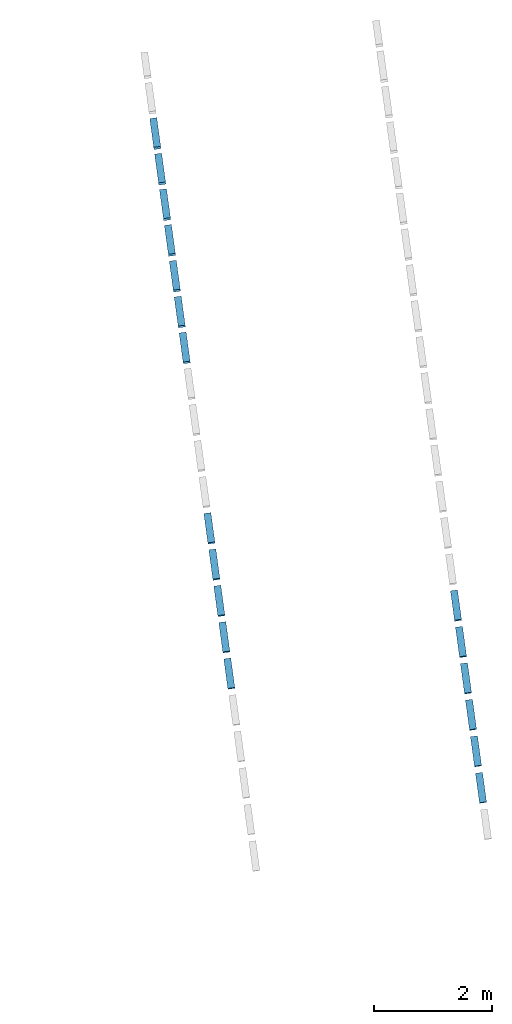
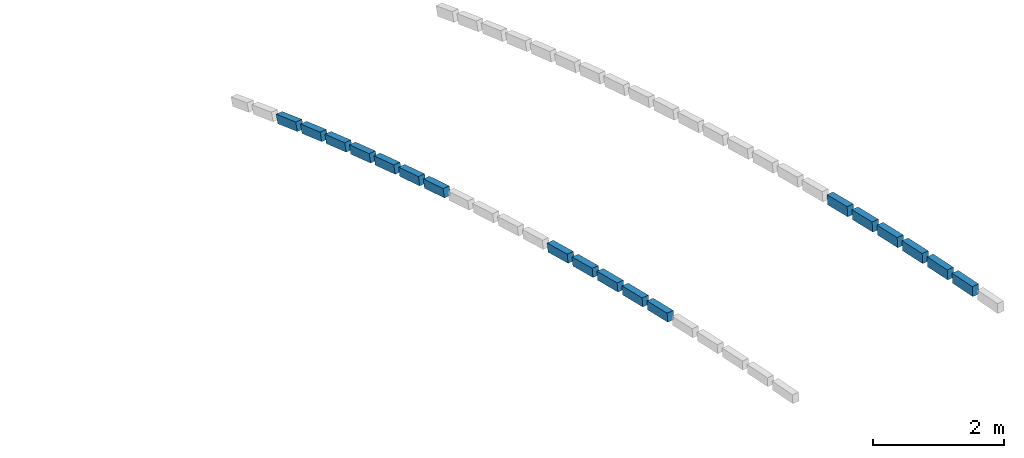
# One storey, part 4 of 6: 18 beams.
"""IFC2X3 building model written with IfcOpenShell, lengths in metres."""

from ifc_helpers import new_model, entity, si_unit, converted_unit, derived_unit, money_unit, direction, frame, frame_2d, origin_with_axes, place, context, subcontext, project, spatial, rectangle, extrude, boolean, faceted_brep, material, type_object, element, save


model = new_model("IFC2X3")

# Units and contexts
model_context = context("Model", 3, precision=1e-05, world=origin_with_axes(), true_north=direction((0.0, 1.0)))
body_context = subcontext(model_context, "Body", "Model", "MODEL_VIEW")
ifc_project = project(units=[si_unit("LENGTHUNIT", "METRE"), si_unit("AREAUNIT", "SQUARE_METRE"), si_unit("VOLUMEUNIT", "CUBIC_METRE"), converted_unit("PLANEANGLEUNIT", "DEGREE", entity("IfcPlaneAngleMeasure", 0.0174532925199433), si_unit("PLANEANGLEUNIT", "RADIAN"), dimensions=[0, 0, 0, 0, 0, 0, 0]), money_unit("EUR"), converted_unit("TIMEUNIT", "Year", entity("IfcTimeMeasure", 31557600.0), si_unit("TIMEUNIT", "SECOND"), dimensions=[0, 0, 1, 0, 0, 0, 0]), si_unit("MASSUNIT", "GRAM", prefix="KILO"), si_unit("THERMODYNAMICTEMPERATUREUNIT", "DEGREE_CELSIUS"), si_unit("LUMINOUSINTENSITYUNIT", "LUMEN"), si_unit("ENERGYUNIT", "JOULE", prefix="MEGA"), derived_unit("THERMALCONDUCTANCEUNIT", [(si_unit("POWERUNIT", "WATT"), 1), (si_unit("LENGTHUNIT", "METRE"), -1), (si_unit("THERMODYNAMICTEMPERATUREUNIT", "KELVIN"), -1)]), derived_unit("SPECIFICHEATCAPACITYUNIT", [(si_unit("ENERGYUNIT", "JOULE"), 1), (si_unit("MASSUNIT", "GRAM", prefix="KILO"), -1), (si_unit("THERMODYNAMICTEMPERATUREUNIT", "KELVIN"), -1)]), derived_unit("MASSDENSITYUNIT", [(si_unit("MASSUNIT", "GRAM", prefix="KILO"), 1), (si_unit("VOLUMEUNIT", "CUBIC_METRE"), -1)])], contexts=[model_context])

# Site, building, storey
site_placement = place(None, origin_with_axes())
site = spatial("IfcSite", under=ifc_project, at=site_placement, Name="Gelände", CompositionType="ELEMENT")
building_placement = place(site_placement, origin_with_axes())
building = spatial("IfcBuilding", under=site, at=building_placement, Name="Gebäude", CompositionType="ELEMENT")
storey_placement = place(building_placement, frame((0.0, 0.0, 9.9), z_axis=(0.0, 0.0, 1.0), x_axis=(1.0, 0.0, 0.0)))
storey = spatial("IfcBuildingStorey", under=building, at=storey_placement, Name="Dach", CompositionType="ELEMENT", Elevation=9.9)

# Beams
ifc_material = material(Name="Bauholz")
beam_type_1 = type_object("IfcBeamType", Name="Bauholz 120 x 160", PredefinedType="NOTDEFINED")
beam_1_placement = place(storey_placement, frame((108.0550938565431, -134.7865069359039, -1.343591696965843), z_axis=(0.0, 0.0, 1.0), x_axis=(-0.9907490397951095, -0.1357068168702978, 0.0)))
element("IfcBeam", 1, at=beam_1_placement, inside=storey, type_object=beam_type_1, material=ifc_material, Name="Unterzug-031", context=body_context, shape_type="CSG", body=[
    boolean("DIFFERENCE", boolean("DIFFERENCE", extrude(rectangle(XDim=0.16, YDim=0.12, at=frame_2d((-0.08, 0.0), x_axis=(1.0, 0.0))), frame((0.0, 0.0, 0.0), z_axis=(0.0, 0.9699179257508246, 0.2434321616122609), x_axis=(0.0, -0.2434321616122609, 0.9699179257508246)), (0.0, 0.0, 1.0), 0.5053439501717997), faceted_brep([(-0.05999999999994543, 0.0, 0.0), (-0.05999999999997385, 0.04030344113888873, -0.1548469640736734), (-0.05999999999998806, 0.0389491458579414, -0.1551868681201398), (0.06000000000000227, 0.04030344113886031, -0.1548469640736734), (0.06000000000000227, 0.0, 0.0), (0.06000000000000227, 0.03894914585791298, -0.1551868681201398)], [[[0, 1, 2]], [[3, 1, 0, 4]], [[1, 3, 5, 2]], [[4, 0, 2, 5]], [[3, 4, 5]]])), faceted_brep([(0.06000000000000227, 0.5290719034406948, -0.03217476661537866), (-0.06000000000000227, 0.5290719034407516, -0.03217476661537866), (-0.05999999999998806, 0.5290913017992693, -0.03216989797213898), (0.06000000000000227, 0.5290913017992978, -0.03216989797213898), (-0.05999999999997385, 0.490040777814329, 0.1229915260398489), (0.0600000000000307, 0.490040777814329, 0.1229915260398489), (-0.05999999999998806, 0.4901421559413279, 0.123016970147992), (0.06000000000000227, 0.4901421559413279, 0.123016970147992)], [[[0, 1, 2, 3]], [[4, 1, 0, 5]], [[1, 4, 6, 2]], [[7, 3, 2, 6]], [[5, 0, 3, 7]], [[4, 5, 7, 6]]])),
])
beam_2_placement = place(storey_placement, frame((108.2199095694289, -135.9897305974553, -1.045690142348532), z_axis=(0.0, 0.0, 1.0), x_axis=(-0.9907490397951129, -0.1357068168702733, 0.0)))
element("IfcBeam", 2, at=beam_2_placement, inside=storey, type_object=beam_type_1, material=ifc_material, Name="Unterzug-031", context=body_context, shape_type="CSG", body=[
    boolean("DIFFERENCE", boolean("DIFFERENCE", extrude(rectangle(XDim=0.16, YDim=0.12, at=frame_2d((-0.08, 0.0), x_axis=(1.0, 0.0))), frame((0.0, 0.0, 0.0), z_axis=(0.0, 0.974598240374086, 0.2239604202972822), x_axis=(0.0, -0.2239604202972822, 0.974598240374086)), (0.0, 0.0, 1.0), 0.5052396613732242), faceted_brep([(-0.05999999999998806, 0.0, 0.0), (-0.05999999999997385, 0.0366277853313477, -0.1557532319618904), (-0.05999999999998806, 0.03583366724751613, -0.1559357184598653), (0.0600000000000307, 0.03662778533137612, -0.1557532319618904), (0.06000000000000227, 0.0, 0.0), (0.06000000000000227, 0.03583366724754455, -0.1559357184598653)], [[[0, 1, 2]], [[3, 1, 0, 4]], [[1, 3, 5, 2]], [[4, 0, 2, 5]], [[3, 4, 5]]])), faceted_brep([(0.06000000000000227, 0.528108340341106, -0.04281213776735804), (-0.05999999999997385, 0.528108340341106, -0.04281213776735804), (-0.06000000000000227, 0.5282393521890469, -0.04278203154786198), (0.06000000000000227, 0.5282393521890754, -0.04278203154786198), (-0.06000000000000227, 0.4924056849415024, 0.1131536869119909), (0.06000000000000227, 0.4924056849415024, 0.1131536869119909)], [[[0, 1, 2, 3]], [[4, 1, 0, 5]], [[1, 4, 2]], [[4, 5, 3, 2]], [[5, 0, 3]]])),
])
beam_3_placement = place(storey_placement, frame((108.1373993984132, -135.3873718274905, -1.191567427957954), z_axis=(0.0, 0.0, 1.0), x_axis=(-0.9907490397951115, -0.1357068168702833, 0.0)))
element("IfcBeam", 3, at=beam_3_placement, inside=storey, type_object=beam_type_1, material=ifc_material, Name="Unterzug-031", context=body_context, shape_type="CSG", body=[
    boolean("DIFFERENCE", boolean("DIFFERENCE", extrude(rectangle(XDim=0.16, YDim=0.12, at=frame_2d((-0.08, 0.0), x_axis=(1.0, 0.0))), frame((0.0, 0.0, 0.0), z_axis=(0.0, 0.9723068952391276, 0.2337077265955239), x_axis=(0.0, -0.2337077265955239, 0.9723068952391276)), (0.0, 0.0, 1.0), 0.5052395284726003), faceted_brep([(-0.05999999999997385, 0.0, 0.0), (-0.05999999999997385, 0.03863559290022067, -0.1552704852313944), (-0.05999999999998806, 0.03739323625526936, -0.1555691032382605), (0.0600000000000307, 0.03863559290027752, -0.1552704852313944), (0.06000000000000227, 0.0, 0.0), (0.06000000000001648, 0.03739323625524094, -0.1555691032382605)], [[[0, 1, 2]], [[3, 1, 0, 4]], [[1, 3, 5, 2]], [[4, 0, 2, 5]], [[3, 4, 5]]])), faceted_brep([(0.0600000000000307, 0.5285104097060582, -0.03752213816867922), (-0.05999999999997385, 0.5285104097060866, -0.03752213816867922), (-0.05999999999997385, 0.528641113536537, -0.03749072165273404), (0.06000000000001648, 0.528641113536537, -0.03749072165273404), (-0.05999999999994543, 0.4912478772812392, 0.1180783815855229), (0.0600000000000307, 0.4912478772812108, 0.1180783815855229)], [[[0, 1, 2, 3]], [[4, 1, 0, 5]], [[1, 4, 2]], [[4, 5, 3, 2]], [[5, 0, 3]]])),
])
beam_4_placement = place(storey_placement, frame((108.4685805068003, -137.8051324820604, -0.6449889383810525), z_axis=(0.0, 0.0, 1.0), x_axis=(-0.9907490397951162, -0.1357068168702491, 0.0)))
element("IfcBeam", 4, at=beam_4_placement, inside=storey, type_object=beam_type_1, material=ifc_material, Name="Unterzug-031", context=body_context, shape_type="CSG", body=[
    boolean("DIFFERENCE", boolean("DIFFERENCE", extrude(rectangle(XDim=0.16, YDim=0.12, at=frame_2d((-0.08, 0.0), x_axis=(1.0, 0.0))), frame((0.0, 0.0, 0.0), z_axis=(0.0, 0.9809235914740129, 0.1943936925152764), x_axis=(0.0, -0.1943936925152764, 0.9809235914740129)), (0.0, 0.0, 1.0), 0.5052407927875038), faceted_brep([(-0.06000000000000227, 0.0, 0.0), (-0.06000000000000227, 0.03190226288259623, -0.1567893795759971), (-0.06000000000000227, 0.03110299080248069, -0.156947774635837), (0.06000000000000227, 0.03190226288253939, -0.1567893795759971), (0.06000000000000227, 0.0, 0.0), (0.06000000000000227, 0.03110299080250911, -0.156947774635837)], [[[0, 1, 2]], [[3, 1, 0, 4]], [[1, 3, 5, 2]], [[4, 0, 2, 5]], [[3, 4, 5]]])), faceted_brep([(0.06000000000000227, 0.5265737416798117, -0.05875828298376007), (-0.06000000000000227, 0.5265737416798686, -0.05875828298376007), (-0.06000000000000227, 0.5267056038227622, -0.0587321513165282), (0.06000000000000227, 0.5267056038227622, -0.0587321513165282), (-0.06000000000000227, 0.4956026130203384, 0.09821562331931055), (0.06000000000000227, 0.4956026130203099, 0.09821562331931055)], [[[0, 1, 2, 3]], [[4, 1, 0, 5]], [[1, 4, 2]], [[4, 5, 3, 2]], [[5, 0, 3]]])),
])
beam_5_placement = place(storey_placement, frame((108.3026159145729, -136.5935215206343, -0.9059747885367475), z_axis=(0.0, 0.0, 1.0), x_axis=(-0.9907490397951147, -0.1357068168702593, 0.0)))
element("IfcBeam", 5, at=beam_5_placement, inside=storey, type_object=beam_type_1, material=ifc_material, Name="Unterzug-031", context=body_context, shape_type="CSG", body=[
    boolean("DIFFERENCE", boolean("DIFFERENCE", extrude(rectangle(XDim=0.16, YDim=0.12, at=frame_2d((-0.08, 0.0), x_axis=(1.0, 0.0))), frame((0.0, 0.0, 0.0), z_axis=(0.0, 0.9767919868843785, 0.2141901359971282), x_axis=(0.0, -0.2141901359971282, 0.9767919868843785)), (0.0, 0.0, 1.0), 0.5052398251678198), faceted_brep([(-0.06000000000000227, 0.0, 0.0), (-0.06000000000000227, 0.03506632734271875, -0.1561121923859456), (-0.06000000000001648, 0.03427042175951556, -0.1562867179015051), (0.05999999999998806, 0.03506632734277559, -0.1561121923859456), (0.06000000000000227, 0.0, 0.0), (0.05999999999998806, 0.03427042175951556, -0.1562867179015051)], [[[0, 1, 2]], [[3, 1, 0, 4]], [[1, 3, 5, 2]], [[4, 0, 2, 5]], [[3, 4, 5]]])), faceted_brep([(0.05999999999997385, 0.5276533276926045, -0.04809812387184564), (-0.06000000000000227, 0.5276533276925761, -0.04809812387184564), (-0.06000000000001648, 0.5277846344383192, -0.04806933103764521), (0.05999999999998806, 0.5277846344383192, -0.04806933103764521), (-0.06000000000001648, 0.4935142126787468, 0.108217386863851), (0.06000000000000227, 0.4935142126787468, 0.108217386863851)], [[[0, 1, 2, 3]], [[4, 1, 0, 5]], [[1, 4, 2]], [[4, 5, 3, 2]], [[5, 0, 3]]])),
])
beam_6_placement = place(storey_placement, frame((108.5518271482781, -138.4128677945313, -0.5239403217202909), z_axis=(0.0, 0.0, 1.0), x_axis=(-0.9907490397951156, -0.1357068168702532, 0.0)))
element("IfcBeam", 6, at=beam_6_placement, inside=storey, type_object=beam_type_1, material=ifc_material, Name="Unterzug-031", context=body_context, shape_type="CSG", body=[
    boolean("DIFFERENCE", boolean("DIFFERENCE", extrude(rectangle(XDim=0.16, YDim=0.12, at=frame_2d((-0.08, 0.0), x_axis=(1.0, 0.0))), frame((0.0, 0.0, 0.0), z_axis=(0.0, 0.9827683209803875, 0.1848416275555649), x_axis=(0.0, -0.1848416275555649, 0.9827683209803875)), (0.0, 0.0, 1.0), 0.5052407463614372), faceted_brep([(-0.05999999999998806, 0.0, 0.0), (-0.05999999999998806, 0.0303754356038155, -0.1570923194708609), (-0.06000000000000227, 0.02957466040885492, -0.1572429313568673), (0.06000000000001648, 0.03037543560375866, -0.1570923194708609), (0.06000000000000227, 0.0, 0.0), (0.06000000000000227, 0.02957466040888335, -0.1572429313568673)], [[[0, 1, 2]], [[3, 1, 0, 4]], [[1, 3, 5, 2]], [[4, 0, 2, 5]], [[3, 4, 5]]])), faceted_brep([(0.06000000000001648, 0.525977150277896, -0.06387825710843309), (-0.05999999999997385, 0.5259771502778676, -0.06387825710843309), (-0.05999999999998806, 0.5261092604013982, -0.06385340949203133), (0.05999999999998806, 0.5261092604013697, -0.06385340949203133), (-0.06000000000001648, 0.496534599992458, 0.09338952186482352), (0.06000000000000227, 0.4965345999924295, 0.09338952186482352)], [[[0, 1, 2, 3]], [[4, 1, 0, 5]], [[1, 4, 2]], [[4, 5, 3, 2]], [[5, 0, 3]]])),
])
beam_7_placement = place(storey_placement, frame((108.9703042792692, -141.4679259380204, -0.0115920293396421), z_axis=(0.0, 0.0, 1.0), x_axis=(-0.9907490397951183, -0.1357068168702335, 0.0)))
element("IfcBeam", 7, at=beam_7_placement, inside=storey, type_object=beam_type_1, material=ifc_material, Name="Unterzug-031", context=body_context, shape_type="CSG", body=[
    boolean("DIFFERENCE", boolean("DIFFERENCE", extrude(rectangle(XDim=0.16, YDim=0.12, at=frame_2d((-0.08, 0.0), x_axis=(1.0, 0.0))), frame((0.0, 0.0, 0.0), z_axis=(0.0, 0.990892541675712, 0.1346550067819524), x_axis=(0.0, -0.1346550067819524, 0.990892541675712)), (0.0, 0.0, 1.0), 0.5052585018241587), faceted_brep([(-0.06000000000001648, 0.0, 0.0), (-0.06000000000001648, 0.02197503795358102, -0.1584843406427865), (-0.06000000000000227, 0.02154480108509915, -0.1585428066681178), (0.05999999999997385, 0.02197503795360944, -0.1584843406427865), (0.05999999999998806, 0.0, 0.0), (0.05999999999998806, 0.02154480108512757, -0.1585428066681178)], [[[0, 1, 2]], [[3, 1, 0, 4]], [[1, 3, 5, 2]], [[4, 0, 2, 5]], [[3, 4, 5]]])), faceted_brep([(0.05999999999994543, 0.5220684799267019, -0.09052532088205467), (-0.06000000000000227, 0.5220684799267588, -0.09052532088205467), (-0.06000000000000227, 0.5222016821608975, -0.09050721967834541), (0.05999999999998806, 0.5222016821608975, -0.09050721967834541), (-0.06000000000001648, 0.5006568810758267, 0.06803558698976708), (0.06000000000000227, 0.5006568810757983, 0.06803558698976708)], [[[0, 1, 2, 3]], [[4, 1, 0, 5]], [[1, 4, 2]], [[4, 5, 3, 2]], [[5, 0, 3]]])),
])
beam_8_placement = place(storey_placement, frame((109.0543965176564, -142.0818344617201, 0.07202363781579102), z_axis=(0.0, 0.0, 1.0), x_axis=(-0.990749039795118, -0.1357068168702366, 0.0)))
element("IfcBeam", 8, at=beam_8_placement, inside=storey, type_object=beam_type_1, material=ifc_material, Name="Unterzug-031", context=body_context, shape_type="CSG", body=[
    boolean("DIFFERENCE", boolean("DIFFERENCE", extrude(rectangle(XDim=0.16, YDim=0.12, at=frame_2d((-0.08, 0.0), x_axis=(1.0, 0.0))), frame((0.0, 0.0, 0.0), z_axis=(0.0, 0.9921754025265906, 0.1248517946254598), x_axis=(0.0, -0.1248517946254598, 0.9921754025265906)), (0.0, 0.0, 1.0), 0.5052407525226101), faceted_brep([(-0.06000000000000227, 0.0, 0.0), (-0.05999999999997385, 0.02040708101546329, -0.1586938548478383), (-0.06000000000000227, 0.01997628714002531, -0.1587480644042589), (0.06000000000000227, 0.02040708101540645, -0.1586938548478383), (0.06000000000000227, 0.0, 0.0), (0.06000000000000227, 0.01997628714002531, -0.1587480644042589)], [[[0, 1, 2]], [[3, 1, 0, 4]], [[1, 3, 5, 2]], [[4, 0, 2, 5]], [[3, 4, 5]]])), faceted_brep([(0.06000000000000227, 0.5211303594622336, -0.09568463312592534), (-0.0600000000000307, 0.5211303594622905, -0.09568463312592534), (-0.06000000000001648, 0.5212637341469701, -0.09566784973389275), (0.05999999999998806, 0.5212637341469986, -0.09566784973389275), (-0.06000000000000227, 0.5012874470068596, 0.06308021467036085), (0.06000000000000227, 0.5012874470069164, 0.06308021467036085)], [[[0, 1, 2, 3]], [[4, 1, 0, 5]], [[1, 4, 2]], [[4, 5, 3, 2]], [[5, 0, 3]]])),
])
beam_9_placement = place(storey_placement, frame((109.1385955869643, -142.6965228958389, 0.1494371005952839), z_axis=(0.0, 0.0, 1.0), x_axis=(-0.9907490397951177, -0.1357068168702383, 0.0)))
element("IfcBeam", 9, at=beam_9_placement, inside=storey, type_object=beam_type_1, material=ifc_material, Name="Unterzug-031", context=body_context, shape_type="CSG", body=[
    boolean("DIFFERENCE", boolean("DIFFERENCE", extrude(rectangle(XDim=0.16, YDim=0.12, at=frame_2d((-0.08, 0.0), x_axis=(1.0, 0.0))), frame((0.0, 0.0, 0.0), z_axis=(0.0, 0.9933728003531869, 0.1149368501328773), x_axis=(0.0, -0.1149368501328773, 0.9933728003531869)), (0.0, 0.0, 1.0), 0.5052231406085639), faceted_brep([(-0.06000000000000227, 0.0, 0.0), (-0.06000000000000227, 0.01882120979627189, -0.1588897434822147), (-0.06000000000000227, 0.01838989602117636, -0.1589396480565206), (0.06000000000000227, 0.01882120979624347, -0.1588897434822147), (0.06000000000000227, 0.0, 0.0), (0.05999999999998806, 0.01838989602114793, -0.1589396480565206)], [[[0, 1, 2]], [[3, 1, 0, 4]], [[1, 3, 5, 2]], [[4, 0, 2, 5]], [[3, 4, 5]]])), faceted_brep([(0.06000000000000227, 0.5201312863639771, -0.1008863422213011), (-0.06000000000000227, 0.5201312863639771, -0.1008863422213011), (-0.06000000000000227, 0.5202648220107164, -0.1008708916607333), (0.06000000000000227, 0.5202648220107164, -0.1008708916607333), (-0.06000000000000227, 0.5018749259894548, 0.05806875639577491), (0.05999999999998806, 0.5018749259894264, 0.05806875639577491)], [[[0, 1, 2, 3]], [[4, 1, 0, 5]], [[1, 4, 2]], [[4, 5, 3, 2]], [[5, 0, 3]]])),
])
beam_10_placement = place(storey_placement, frame((109.2228926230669, -143.3119265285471, 0.2206739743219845), z_axis=(0.0, 0.0, 1.0), x_axis=(-0.9907490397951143, -0.1357068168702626, 0.0)))
element("IfcBeam", 10, at=beam_10_placement, inside=storey, type_object=beam_type_1, material=ifc_material, Name="Unterzug-031", context=body_context, shape_type="CSG", body=[
    boolean("DIFFERENCE", boolean("DIFFERENCE", extrude(rectangle(XDim=0.16, YDim=0.12, at=frame_2d((-0.08, 0.0), x_axis=(1.0, 0.0))), frame((0.0, 0.0, 0.0), z_axis=(0.0, 0.994501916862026, 0.1047183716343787), x_axis=(0.0, -0.1047183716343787, 0.994501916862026)), (0.0, 0.0, 1.0), 0.5052516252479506), faceted_brep([(-0.06000000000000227, 0.0, 0.0), (-0.06000000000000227, 0.01718674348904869, -0.1590748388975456), (-0.06000000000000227, 0.01675493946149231, -0.1591203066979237), (0.06000000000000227, 0.01718674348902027, -0.1590748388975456), (0.0600000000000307, 0.0, 0.0), (0.06000000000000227, 0.01675493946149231, -0.1591203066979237)], [[[0, 1, 2]], [[3, 1, 0, 4]], [[1, 3, 5, 2]], [[4, 0, 2, 5]], [[3, 4, 5]]])), faceted_brep([(0.06000000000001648, 0.5190949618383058, -0.106225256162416), (-0.05999999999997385, 0.5190949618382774, -0.106225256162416), (-0.06000000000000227, 0.5192286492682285, -0.1062111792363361), (0.06000000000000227, 0.5192286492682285, -0.1062111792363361), (-0.05999999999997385, 0.5024737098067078, 0.0529091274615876), (0.0600000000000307, 0.5024737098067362, 0.0529091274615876)], [[[0, 1, 2, 3]], [[4, 1, 0, 5]], [[1, 4, 2]], [[4, 5, 3, 2]], [[5, 0, 3]]])),
])
beam_11_placement = place(storey_placement, frame((109.3072890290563, -143.9280556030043, 0.285480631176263), z_axis=(0.0, 0.0, 1.0), x_axis=(-0.9907490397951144, -0.1357068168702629, 0.0)))
element("IfcBeam", 11, at=beam_11_placement, inside=storey, type_object=beam_type_1, material=ifc_material, Name="Unterzug-031", context=body_context, shape_type="CSG", body=[
    boolean("DIFFERENCE", boolean("DIFFERENCE", extrude(rectangle(XDim=0.16, YDim=0.12, at=frame_2d((-0.08, 0.0), x_axis=(1.0, 0.0))), frame((0.0, 0.0, 0.0), z_axis=(0.0, 0.9955055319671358, 0.09470340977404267), x_axis=(0.0, -0.09470340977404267, 0.9955055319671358)), (0.0, 0.0, 1.0), 0.5052457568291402), faceted_brep([(-0.06000000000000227, 0.0, 0.0), (-0.06000000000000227, 0.01558478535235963, -0.159239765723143), (-0.06000000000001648, 0.01515254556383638, -0.1592808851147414), (0.05999999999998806, 0.01558478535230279, -0.159239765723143), (0.06000000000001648, 0.0, 0.0), (0.05999999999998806, 0.01515254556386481, -0.1592808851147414)], [[[0, 1, 2]], [[3, 1, 0, 4]], [[1, 3, 5, 2]], [[4, 0, 2, 5]], [[3, 4, 5]]])), faceted_brep([(0.05999999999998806, 0.5179936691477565, -0.111445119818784), (-0.06000000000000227, 0.517993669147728, -0.111445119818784), (-0.05999999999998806, 0.5181274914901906, -0.1114323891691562), (0.05999999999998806, 0.5181274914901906, -0.1114323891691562), (-0.06000000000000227, 0.5029749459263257, 0.04784849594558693), (0.05999999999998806, 0.5029749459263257, 0.04784849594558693)], [[[0, 1, 2, 3]], [[4, 1, 0, 5]], [[1, 4, 2]], [[4, 5, 3, 2]], [[5, 0, 3]]])),
])
beam_12_placement = place(storey_placement, frame((108.3855099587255, -137.1986827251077, -0.772435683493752), z_axis=(0.0, 0.0, 1.0), x_axis=(-0.9907490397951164, -0.1357068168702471, 0.0)))
element("IfcBeam", 12, at=beam_12_placement, inside=storey, type_object=beam_type_1, material=ifc_material, Name="Unterzug-031", context=body_context, shape_type="CSG", body=[
    boolean("DIFFERENCE", boolean("DIFFERENCE", extrude(rectangle(XDim=0.16, YDim=0.12, at=frame_2d((-0.08, 0.0), x_axis=(1.0, 0.0))), frame((0.0, 0.0, 0.0), z_axis=(0.0, 0.9788473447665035, 0.204591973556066), x_axis=(0.0, -0.204591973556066, 0.9788473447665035)), (0.0, 0.0, 1.0), 0.50524049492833), faceted_brep([(-0.0600000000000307, 0.0, 0.0), (-0.06000000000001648, 0.03353229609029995, -0.1564488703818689), (-0.06000000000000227, 0.03273471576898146, -0.1566155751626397), (0.05999999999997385, 0.03353229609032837, -0.1564488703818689), (0.06000000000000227, 0.0, 0.0), (0.05999999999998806, 0.03273471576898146, -0.1566155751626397)], [[[0, 1, 2]], [[3, 1, 0, 4]], [[1, 3, 5, 2]], [[4, 0, 2, 5]], [[3, 4, 5]]])), faceted_brep([(0.05999999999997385, 0.5271564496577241, -0.05327492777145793), (-0.06000000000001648, 0.5271564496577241, -0.05327492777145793), (-0.06000000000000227, 0.5272880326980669, -0.05324742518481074), (0.05999999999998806, 0.5272880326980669, -0.05324742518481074), (-0.06000000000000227, 0.4945533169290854, 0.1033681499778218), (0.05999999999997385, 0.4945533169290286, 0.1033681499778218)], [[[0, 1, 2, 3]], [[4, 1, 0, 5]], [[1, 4, 2]], [[4, 5, 3, 2]], [[5, 0, 3]]])),
])
beam_type_2 = type_object("IfcBeamType", Name="Bauholz 120 x 180", PredefinedType="NOTDEFINED")
beam_13_placement = place(storey_placement, frame((113.6260322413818, -145.8636261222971, 0.3021400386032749), z_axis=(0.0, 0.0, 1.0), x_axis=(-0.9907490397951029, -0.1357068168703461, 0.0)))
element("IfcBeam", 13, at=beam_13_placement, inside=storey, type_object=beam_type_2, material=ifc_material, Name="Unterzug-031", context=body_context, shape_type="CSG", body=[
    boolean("DIFFERENCE", boolean("DIFFERENCE", extrude(rectangle(XDim=0.18, YDim=0.12, at=frame_2d((0.09, 0.06), x_axis=(1.0, 0.0))), frame((0.0, -0.0006473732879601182, -3.504357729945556e-05), z_axis=(0.0, 0.998538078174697, 0.0540528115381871), x_axis=(0.0, -0.0540528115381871, 0.998538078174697)), (0.0, 0.0, 1.0), 0.5046524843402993), faceted_brep([(0.0, -0.01035690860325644, 0.1797028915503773), (0.0, 0.0, 0.0), (0.0, -0.0006473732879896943, -3.50435772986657e-05), (0.0, -0.01037687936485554, 0.1797018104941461), (0.1199999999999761, 0.0, 0.0), (0.1200000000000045, -0.01035690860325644, 0.1797028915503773), (0.1199999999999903, -0.0006473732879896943, -3.50435772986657e-05), (0.1199999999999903, -0.01037687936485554, 0.1797018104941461)], [[[0, 1, 2, 3]], [[4, 1, 0, 5]], [[1, 4, 6, 2]], [[2, 6, 7, 3]], [[5, 0, 3, 7]], [[4, 5, 7, 6]]])), faceted_brep([(0.1199999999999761, 0.5026199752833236, 0.02720779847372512), (0.0, 0.5026199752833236, 0.02720779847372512), (0.0, 0.5032673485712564, 0.02724284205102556), (0.1200000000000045, 0.5032673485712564, 0.02724284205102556), (0.0, 0.4935178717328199, 0.2069786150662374), (0.1199999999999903, 0.4935178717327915, 0.2069786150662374), (0.0, 0.4935378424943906, 0.2069796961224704), (0.1199999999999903, 0.4935378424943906, 0.2069796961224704)], [[[0, 1, 2, 3]], [[4, 1, 0, 5]], [[1, 4, 6, 2]], [[7, 3, 2, 6]], [[5, 0, 3, 7]], [[4, 5, 7, 6]]])),
])
beam_14_placement = place(storey_placement, frame((113.5415909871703, -145.2471291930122, 0.2625299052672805), z_axis=(0.0, 0.0, 1.0), x_axis=(-0.9907490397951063, -0.1357068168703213, 0.0)))
element("IfcBeam", 14, at=beam_14_placement, inside=storey, type_object=beam_type_2, material=ifc_material, Name="Unterzug-031", context=body_context, shape_type="CSG", body=[
    boolean("DIFFERENCE", boolean("DIFFERENCE", extrude(rectangle(XDim=0.18, YDim=0.12, at=frame_2d((0.09, 0.06), x_axis=(1.0, 0.0))), frame((0.0, -0.0006469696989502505, -4.183819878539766e-05), z_axis=(0.0, 0.9979155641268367, 0.06453314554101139), x_axis=(0.0, -0.06453314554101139, 0.9979155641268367)), (0.0, 0.0, 1.0), 0.5048110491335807), faceted_brep([(0.0, -0.01224297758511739, 0.1795842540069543), (0.0, 0.0, 0.0), (0.0, -0.0006469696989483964, -4.183819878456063e-05), (0.0, -0.01226293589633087, 0.1795829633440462), (0.1200000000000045, 0.0, 0.0), (0.1200000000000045, -0.01224297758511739, 0.1795842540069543), (0.1200000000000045, -0.0006469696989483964, -4.183819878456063e-05), (0.1200000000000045, -0.01226293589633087, 0.1795829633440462)], [[[0, 1, 2, 3]], [[4, 1, 0, 5]], [[1, 4, 6, 2]], [[2, 6, 7, 3]], [[5, 0, 3, 7]], [[4, 5, 7, 6]]])), faceted_brep([(0.1200000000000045, 0.5024648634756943, 0.03249336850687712), (0.0, 0.5024648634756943, 0.03249336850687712), (0.0, 0.5031118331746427, 0.03253520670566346), (0.1199999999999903, 0.5031118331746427, 0.03253520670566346), (0.0, 0.4914759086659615, 0.2121587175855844), (0.1200000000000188, 0.491475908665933, 0.2121587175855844), (0.0, 0.4914958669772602, 0.2121600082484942), (0.1200000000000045, 0.4914958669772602, 0.2121600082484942)], [[[0, 1, 2, 3]], [[4, 1, 0, 5]], [[1, 4, 6, 2]], [[7, 3, 2, 6]], [[5, 0, 3, 7]], [[4, 5, 7, 6]]])),
])
beam_15_placement = place(storey_placement, frame((113.3729153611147, -144.0156452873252, 0.1647327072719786), z_axis=(0.0, 0.0, 1.0), x_axis=(-0.9907490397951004, -0.1357068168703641, 0.0)))
element("IfcBeam", 15, at=beam_15_placement, inside=storey, type_object=beam_type_2, material=ifc_material, Name="Unterzug-031", context=body_context, shape_type="CSG", body=[
    boolean("DIFFERENCE", boolean("DIFFERENCE", extrude(rectangle(XDim=0.18, YDim=0.12, at=frame_2d((0.09, 0.06), x_axis=(1.0, 0.0))), frame((0.0, -0.0006460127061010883, -5.466086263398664e-05), z_axis=(0.0, 0.9964394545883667, 0.08431140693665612), x_axis=(0.0, -0.08431140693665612, 0.9964394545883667)), (0.0, 0.0, 1.0), 0.5049731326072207), faceted_brep([(0.0, -0.015802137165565, 0.1793061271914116), (0.0, 0.0, 0.0), (0.0, -0.0006460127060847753, -5.466086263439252e-05), (0.0, -0.01582206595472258, 0.1793044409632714), (0.1199999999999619, 0.0, 0.0), (0.1199999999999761, -0.01580213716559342, 0.1793061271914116), (0.1199999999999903, -0.0006460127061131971, -5.466086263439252e-05), (0.1199999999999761, -0.01582206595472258, 0.1793044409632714)], [[[0, 1, 2, 3]], [[4, 1, 0, 5]], [[1, 4, 6, 2]], [[2, 6, 7, 3]], [[5, 0, 3, 7]], [[4, 5, 7, 6]]])), faceted_brep([(0.1199999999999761, 0.5018831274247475, 0.04246567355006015), (0.0, 0.5018831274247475, 0.04246567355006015), (0.0, 0.5025291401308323, 0.04252033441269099), (0.1200000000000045, 0.5025291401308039, 0.04252033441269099), (0.0, 0.4873331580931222, 0.2218777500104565), (0.1199999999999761, 0.4873331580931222, 0.2218777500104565), (0.0, 0.4873530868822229, 0.2218794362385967), (0.1199999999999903, 0.4873530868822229, 0.2218794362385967)], [[[0, 1, 2, 3]], [[4, 1, 0, 5]], [[1, 4, 6, 2]], [[7, 3, 2, 6]], [[5, 0, 3, 7]], [[4, 5, 7, 6]]])),
])
beam_16_placement = place(storey_placement, frame((113.2886870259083, -143.4007028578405, 0.1063675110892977), z_axis=(0.0, 0.0, 1.0), x_axis=(-0.9907490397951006, -0.1357068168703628, 0.0)))
element("IfcBeam", 16, at=beam_16_placement, inside=storey, type_object=beam_type_2, material=ifc_material, Name="Unterzug-031", context=body_context, shape_type="CSG", body=[
    boolean("DIFFERENCE", boolean("DIFFERENCE", extrude(rectangle(XDim=0.18, YDim=0.12, at=frame_2d((0.09, 0.06), x_axis=(1.0, 0.0))), frame((0.0, -0.0006454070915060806, -6.139961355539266e-05), z_axis=(0.0, 0.9955053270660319, 0.09470556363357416), x_axis=(0.0, -0.09470556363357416, 0.9955053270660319)), (0.0, 0.0, 1.0), 0.5047202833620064), faceted_brep([(0.0, -0.01767249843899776, 0.1791314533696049), (0.0, 0.0, 0.0), (0.0, -0.0006454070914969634, -6.139961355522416e-05), (0.0, -0.01769240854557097, 0.17912955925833), (0.1200000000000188, 0.0, 0.0), (0.1200000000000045, -0.01767249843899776, 0.1791314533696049), (0.1199999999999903, -0.0006454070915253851, -6.139961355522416e-05), (0.1199999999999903, -0.01769240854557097, 0.17912955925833)], [[[0, 1, 2, 3]], [[4, 1, 0, 5]], [[1, 4, 6, 2]], [[2, 6, 7, 3]], [[5, 0, 3, 7]], [[4, 5, 7, 6]]])), faceted_brep([(0.1199999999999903, 0.5011609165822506, 0.04767701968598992), (0.0, 0.5011609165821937, 0.04767701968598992), (0.0, 0.5018063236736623, 0.04773841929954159), (0.1199999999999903, 0.5018063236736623, 0.04773841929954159), (0.0, 0.4847394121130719, 0.2269274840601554), (0.1199999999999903, 0.4847394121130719, 0.2269274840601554), (0.0, 0.4847593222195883, 0.2269293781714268), (0.1199999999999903, 0.4847593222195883, 0.2269293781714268)], [[[0, 1, 2, 3]], [[4, 1, 0, 5]], [[1, 4, 6, 2]], [[7, 3, 2, 6]], [[5, 0, 3, 7]], [[4, 5, 7, 6]]])),
])
beam_17_placement = place(storey_placement, frame((113.204554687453, -142.7864612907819, 0.04176100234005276), z_axis=(0.0, 0.0, 1.0), x_axis=(-0.9907490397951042, -0.1357068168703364, 0.0)))
element("IfcBeam", 17, at=beam_17_placement, inside=storey, type_object=beam_type_2, material=ifc_material, Name="Unterzug-031", context=body_context, shape_type="CSG", body=[
    boolean("DIFFERENCE", boolean("DIFFERENCE", extrude(rectangle(XDim=0.18, YDim=0.12, at=frame_2d((0.09, 0.06), x_axis=(1.0, 0.0))), frame((0.0, -0.0006447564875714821, -6.7891811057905e-05), z_axis=(0.0, 0.9945018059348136, 0.1047194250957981), x_axis=(0.0, -0.1047194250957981, 0.9945018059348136)), (0.0, 0.0, 1.0), 0.5046319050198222), faceted_brep([(0.0, -0.01947436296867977, 0.1789445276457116), (0.0, 0.0, 0.0), (0.0, -0.0006447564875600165, -6.789181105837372e-05), (0.0, -0.01949425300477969, 0.1789424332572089), (0.1200000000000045, 0.0, 0.0), (0.1199999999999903, -0.01947436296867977, 0.1789445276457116), (0.1199999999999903, -0.0006447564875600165, -6.789181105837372e-05), (0.1199999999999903, -0.01949425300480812, 0.1789424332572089)], [[[0, 1, 2, 3]], [[4, 1, 0, 5]], [[1, 4, 6, 2]], [[2, 6, 7, 3]], [[5, 0, 3, 7]], [[4, 5, 7, 6]]])), faceted_brep([(0.1199999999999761, 0.5005678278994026, 0.05270897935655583), (0.0, 0.5005678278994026, 0.05270897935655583), (0.0, 0.5012125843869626, 0.0527768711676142), (0.1200000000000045, 0.5012125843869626, 0.0527768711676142), (0.0, 0.4823431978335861, 0.2317851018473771), (0.1200000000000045, 0.4823431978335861, 0.2317851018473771), (0.0, 0.4823630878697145, 0.2317871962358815), (0.1199999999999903, 0.4823630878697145, 0.2317871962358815)], [[[0, 1, 2, 3]], [[4, 1, 0, 5]], [[1, 4, 6, 2]], [[7, 3, 2, 6]], [[5, 0, 3, 7]], [[4, 5, 7, 6]]])),
])
beam_18_placement = place(storey_placement, frame((113.457253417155, -144.6313887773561, 0.216843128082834), z_axis=(0.0, 0.0, 1.0), x_axis=(-0.9907490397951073, -0.1357068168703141, 0.0)))
element("IfcBeam", 18, at=beam_18_placement, inside=storey, type_object=beam_type_2, material=ifc_material, Name="Unterzug-031", context=body_context, shape_type="CSG", body=[
    boolean("DIFFERENCE", boolean("DIFFERENCE", extrude(rectangle(XDim=0.18, YDim=0.12, at=frame_2d((0.09, 0.06), x_axis=(1.0, 0.0))), frame((0.0, -0.0009598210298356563, -7.157987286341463e-05), z_axis=(0.0, 0.9972307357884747, 0.07436974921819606), x_axis=(0.0, -0.07436974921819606, 0.9972307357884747)), (0.0, 0.0, 1.0), 0.5047786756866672), faceted_brep([(0.0, -0.01432643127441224, 0.1794314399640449), (0.0, 0.0, 0.0), (0.0, -0.0009598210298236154, -7.157987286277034e-05), (0.0, -0.01434637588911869, 0.1794299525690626), (0.1200000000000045, 0.0, 0.0), (0.1200000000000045, -0.01432643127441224, 0.1794314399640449), (0.1200000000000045, -0.0009598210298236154, -7.157987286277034e-05), (0.1199999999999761, -0.01434637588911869, 0.1794299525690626)], [[[0, 1, 2, 3]], [[4, 1, 0, 5]], [[1, 4, 6, 2]], [[2, 6, 7, 3]], [[5, 0, 3, 7]], [[4, 5, 7, 6]]])), faceted_brep([(0.1200000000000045, 0.5017744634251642, 0.03742046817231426), (0.0, 0.5017744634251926, 0.03742046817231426), (0.0, 0.5024209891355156, 0.03746868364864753), (0.1199999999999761, 0.5024209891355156, 0.03746868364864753), (0.0, 0.4890144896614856, 0.216968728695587), (0.1199999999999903, 0.4890144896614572, 0.216968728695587), (0.0, 0.4890344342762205, 0.2169702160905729), (0.1200000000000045, 0.4890344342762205, 0.2169702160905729)], [[[0, 1, 2, 3]], [[4, 1, 0, 5]], [[1, 4, 6, 2]], [[7, 3, 2, 6]], [[5, 0, 3, 7]], [[4, 5, 7, 6]]])),
])

save(model, "model.ifc")
